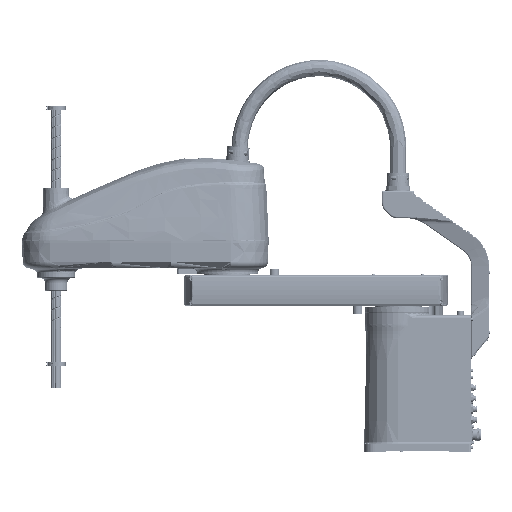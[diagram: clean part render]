
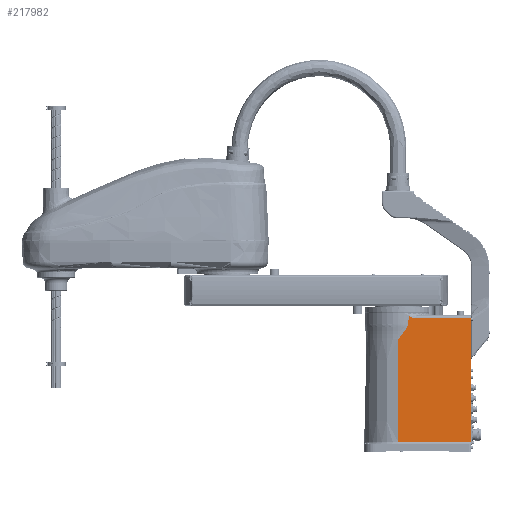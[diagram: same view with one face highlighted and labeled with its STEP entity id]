
A CAD part, left-side view. The second image highlights one B-rep face of the part: STEP entity #217982.
In plain terms, the highlighted planar face has unit normal (-1, 0, 0.018).
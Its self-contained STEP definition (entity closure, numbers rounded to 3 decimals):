
#5944 = CARTESIAN_POINT ( 'NONE',  ( -75.842, -6.356, 271.744 ) ) ;
#10734 = CARTESIAN_POINT ( 'NONE',  ( -75.137, -45.315, 312.14 ) ) ;
#12375 = CARTESIAN_POINT ( 'NONE',  ( -75.06, -26.649, 316.587 ) ) ;
#13837 = AXIS2_PLACEMENT_3D ( 'NONE', #151140, #255242, #72698 ) ;
#15012 = CARTESIAN_POINT ( 'NONE',  ( -75.12, -36.405, 313.131 ) ) ;
#19217 = VERTEX_POINT ( 'NONE', #166460 ) ;
#19699 = EDGE_CURVE ( 'NONE', #148125, #149781, #118620, .T. ) ;
#20595 = EDGE_CURVE ( 'NONE', #202650, #187266, #113774, .T. ) ;
#26342 = CARTESIAN_POINT ( 'NONE',  ( -75.467, -21.411, 293.235 ) ) ;
#33318 = CARTESIAN_POINT ( 'NONE',  ( -75.433, -22.083, 295.22 ) ) ;
#49714 = FACE_OUTER_BOUND ( 'NONE', #150068, .T. ) ;
#52971 = CARTESIAN_POINT ( 'NONE',  ( -75.137, -43.498, 312.14 ) ) ;
#53218 = EDGE_CURVE ( 'NONE', #60534, #74069, #61329, .T. ) ;
#53587 = CARTESIAN_POINT ( 'NONE',  ( -75.273, -23.359, 304.388 ) ) ;
#54621 = EDGE_CURVE ( 'NONE', #137594, #148125, #246095, .T. ) ;
#54915 = CARTESIAN_POINT ( 'NONE',  ( -75.344, -22.906, 300.298 ) ) ;
#56558 = ORIENTED_EDGE ( 'NONE', *, *, #20595, .T. ) ;
#57220 = VECTOR ( 'NONE', #72087, 1000. ) ;
#60534 = VERTEX_POINT ( 'NONE', #172678 ) ;
#61329 = B_SPLINE_CURVE_WITH_KNOTS ( 'NONE', 3,
 ( #26342, #193985, #72258, #211565 ),
 .UNSPECIFIED., .F., .F.,
 ( 4, 4 ),
 ( 0., 0.005 ),
 .UNSPECIFIED. ) ;
#62668 = CARTESIAN_POINT ( 'NONE',  ( -80.168, 0., 23.913 ) ) ;
#65543 = VECTOR ( 'NONE', #263288, 1000. ) ;
#68935 = CARTESIAN_POINT ( 'NONE',  ( -75.326, -23.023, 301.32 ) ) ;
#71956 = CARTESIAN_POINT ( 'NONE',  ( -75.056, -26.248, 316.795 ) ) ;
#72087 = DIRECTION ( 'NONE',  ( 0.017, 0., 1. ) ) ;
#72258 = CARTESIAN_POINT ( 'NONE',  ( -75.517, -20.061, 290.385 ) ) ;
#72698 = DIRECTION ( 'NONE',  ( 0.017, 0., 1. ) ) ;
#73288 = CARTESIAN_POINT ( 'NONE',  ( -75.048, -25.455, 317.231 ) ) ;
#74069 = VERTEX_POINT ( 'NONE', #172310 ) ;
#74747 = CARTESIAN_POINT ( 'NONE',  ( -75., -169., 320. ) ) ;
#75630 = B_SPLINE_CURVE_WITH_KNOTS ( 'NONE', 3,
 ( #196547, #131673, #5944, #258752 ),
 .UNSPECIFIED., .F., .F.,
 ( 4, 4 ),
 ( 0., 0.032 ),
 .UNSPECIFIED. ) ;
#82714 = ORIENTED_EDGE ( 'NONE', *, *, #19699, .T. ) ;
#86489 = CARTESIAN_POINT ( 'NONE',  ( -75.38, -22.644, 298.258 ) ) ;
#90705 = CARTESIAN_POINT ( 'NONE',  ( -75., 0., 320. ) ) ;
#96125 = CARTESIAN_POINT ( 'NONE',  ( -80.168, -170., 23.913 ) ) ;
#97455 = DIRECTION ( 'NONE',  ( 0., -1., 0. ) ) ;
#97526 = CARTESIAN_POINT ( 'NONE',  ( -75.103, -32.937, 314.077 ) ) ;
#113774 = LINE ( 'NONE', #96125, #266415 ) ;
#113972 = LINE ( 'NONE', #74747, #57220 ) ;
#114483 = CARTESIAN_POINT ( 'NONE',  ( -75.112, -24.288, 313.602 ) ) ;
#116046 = EDGE_CURVE ( 'NONE', #149781, #60534, #119938, .T. ) ;
#118620 = B_SPLINE_CURVE_WITH_KNOTS ( 'NONE', 3,
 ( #216598, #52971, #197632, #178634, #15012, #257187, #97526, #157078, #219244, #135438, #174679, #12375, #71956, #73288, #200272, #177315 ),
 .UNSPECIFIED., .F., .F.,
 ( 4, 2, 2, 2, 2, 2, 2, 4 ),
 ( 0., 0.005, 0.011, 0.013, 0.016, 0.019, 0.02, 0.021 ),
 .UNSPECIFIED. ) ;
#119938 = B_SPLINE_CURVE_WITH_KNOTS ( 'NONE', 3,
 ( #156381, #114483, #260483, #53587, #177953, #68935, #54915, #86489, #252808, #33318, #238862, #171656 ),
 .UNSPECIFIED., .F., .F.,
 ( 4, 2, 2, 2, 2, 4 ),
 ( 0., 0.012, 0.015, 0.019, 0.022, 0.025 ),
 .UNSPECIFIED. ) ;
#121255 = EDGE_CURVE ( 'NONE', #187266, #137594, #113972, .T. ) ;
#131673 = CARTESIAN_POINT ( 'NONE',  ( -75.69, -12.697, 280.457 ) ) ;
#135438 = CARTESIAN_POINT ( 'NONE',  ( -75.076, -28.69, 315.626 ) ) ;
#136226 = LINE ( 'NONE', #90705, #65543 ) ;
#137594 = VERTEX_POINT ( 'NONE', #220057 ) ;
#141174 = ORIENTED_EDGE ( 'NONE', *, *, #267712, .T. ) ;
#148125 = VERTEX_POINT ( 'NONE', #10734 ) ;
#149781 = VERTEX_POINT ( 'NONE', #220989 ) ;
#150068 = EDGE_LOOP ( 'NONE', ( #56558, #155174, #178847, #82714, #208726, #222152, #238131, #141174 ) ) ;
#151140 = CARTESIAN_POINT ( 'NONE',  ( -75., 0., 320. ) ) ;
#155174 = ORIENTED_EDGE ( 'NONE', *, *, #121255, .T. ) ;
#156381 = CARTESIAN_POINT ( 'NONE',  ( -75.04, -24.678, 317.7 ) ) ;
#157078 = CARTESIAN_POINT ( 'NONE',  ( -75.094, -31.219, 314.643 ) ) ;
#164943 = DIRECTION ( 'NONE',  ( 0., 1., 0. ) ) ;
#166460 = CARTESIAN_POINT ( 'NONE',  ( -75.994, 0., 263.043 ) ) ;
#169913 = EDGE_CURVE ( 'NONE', #74069, #19217, #75630, .T. ) ;
#171656 = CARTESIAN_POINT ( 'NONE',  ( -75.467, -21.411, 293.235 ) ) ;
#172310 = CARTESIAN_POINT ( 'NONE',  ( -75.539, -19.116, 289.111 ) ) ;
#172678 = CARTESIAN_POINT ( 'NONE',  ( -75.467, -21.411, 293.235 ) ) ;
#174679 = CARTESIAN_POINT ( 'NONE',  ( -75.07, -27.865, 315.99 ) ) ;
#177315 = CARTESIAN_POINT ( 'NONE',  ( -75.04, -24.678, 317.7 ) ) ;
#177953 = CARTESIAN_POINT ( 'NONE',  ( -75.29, -23.25, 303.365 ) ) ;
#178634 = CARTESIAN_POINT ( 'NONE',  ( -75.126, -38.159, 312.774 ) ) ;
#178847 = ORIENTED_EDGE ( 'NONE', *, *, #54621, .T. ) ;
#184792 = CARTESIAN_POINT ( 'NONE',  ( -80.168, -169., 23.913 ) ) ;
#187266 = VERTEX_POINT ( 'NONE', #184792 ) ;
#193985 = CARTESIAN_POINT ( 'NONE',  ( -75.493, -20.832, 291.756 ) ) ;
#196547 = CARTESIAN_POINT ( 'NONE',  ( -75.539, -19.116, 289.111 ) ) ;
#197632 = CARTESIAN_POINT ( 'NONE',  ( -75.135, -41.706, 312.278 ) ) ;
#200272 = CARTESIAN_POINT ( 'NONE',  ( -75.044, -25.062, 317.46 ) ) ;
#201837 = VECTOR ( 'NONE', #164943, 1000. ) ;
#202650 = VERTEX_POINT ( 'NONE', #62668 ) ;
#208726 = ORIENTED_EDGE ( 'NONE', *, *, #116046, .T. ) ;
#211565 = CARTESIAN_POINT ( 'NONE',  ( -75.539, -19.116, 289.111 ) ) ;
#216598 = CARTESIAN_POINT ( 'NONE',  ( -75.137, -45.315, 312.14 ) ) ;
#217325 = PLANE ( 'NONE',  #13837 ) ;
#217982 = ADVANCED_FACE ( 'NONE', ( #49714 ), #217325, .T. ) ;
#219244 = CARTESIAN_POINT ( 'NONE',  ( -75.088, -30.367, 314.953 ) ) ;
#220057 = CARTESIAN_POINT ( 'NONE',  ( -75.137, -169., 312.14 ) ) ;
#220989 = CARTESIAN_POINT ( 'NONE',  ( -75.04, -24.678, 317.7 ) ) ;
#222152 = ORIENTED_EDGE ( 'NONE', *, *, #53218, .T. ) ;
#238131 = ORIENTED_EDGE ( 'NONE', *, *, #169913, .T. ) ;
#238862 = CARTESIAN_POINT ( 'NONE',  ( -75.45, -21.797, 294.221 ) ) ;
#243409 = CARTESIAN_POINT ( 'NONE',  ( -75.137, -30.594, 312.14 ) ) ;
#246095 = LINE ( 'NONE', #243409, #201837 ) ;
#252808 = CARTESIAN_POINT ( 'NONE',  ( -75.397, -22.503, 297.239 ) ) ;
#255242 = DIRECTION ( 'NONE',  ( -1., 0., 0.017 ) ) ;
#257187 = CARTESIAN_POINT ( 'NONE',  ( -75.108, -33.8, 313.821 ) ) ;
#258752 = CARTESIAN_POINT ( 'NONE',  ( -75.994, 0., 263.043 ) ) ;
#260483 = CARTESIAN_POINT ( 'NONE',  ( -75.183, -23.893, 309.504 ) ) ;
#263288 = DIRECTION ( 'NONE',  ( -0.017, 0., -1. ) ) ;
#266415 = VECTOR ( 'NONE', #97455, 1000. ) ;
#267712 = EDGE_CURVE ( 'NONE', #19217, #202650, #136226, .T. ) ;
